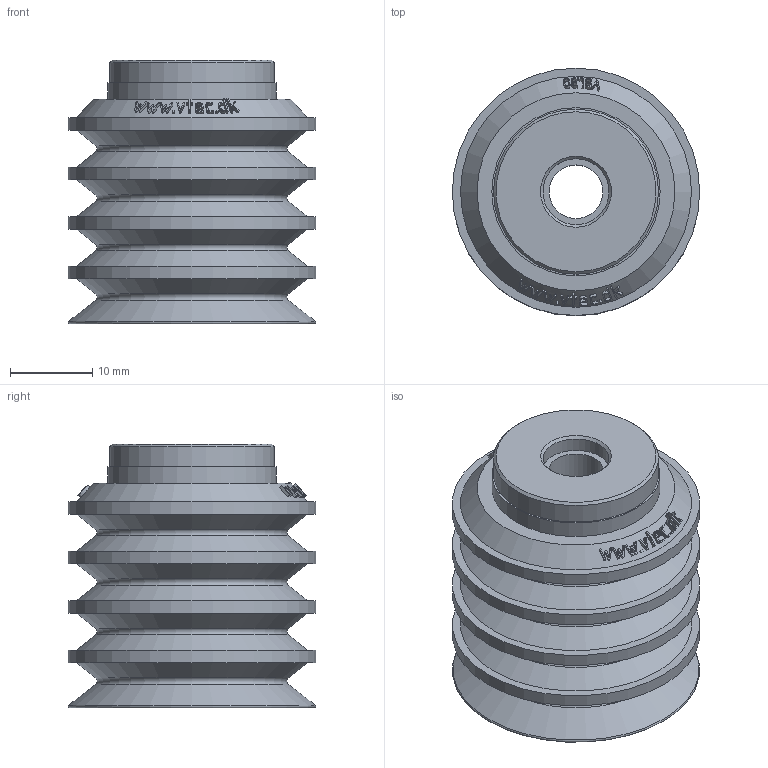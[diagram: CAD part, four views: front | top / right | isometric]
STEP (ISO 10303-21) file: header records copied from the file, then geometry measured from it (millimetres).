
FILE_DESCRIPTION( ( 'STEP AP203' ), '1' );
FILE_NAME( 'C:/撲啗紫賊-02/3D-蘋驍煎斜/Vacuum Pad/VBL series/VBL30.stp', '2006-04-24T11:49:53', ( ' ' ), ( ' ' ), 'XStep 1.0', ' ', ' ' );
FILE_SCHEMA( ( 'CONFIG_CONTROL_DESIGN) ( )' ) );
Length unit declared in the file: metre
Products named in the file (1): 1
Bounding box: 30 x 30 x 32 mm (x, y, z)
Volume: 4704.1 mm3; surface area: 8332.4 mm2
Topology: 1 solids, 1 shells, 201 faces, 476 edges, 311 vertices
Faces by surface type: bspline 129, cone 41, plane 17, cylinder 9, torus 5
Full cylindrical faces by diameter (mm): 6.5 x1, 8 x1, 11.5 x1, 20 x1, 20.4 x1, 30 x4
Entity records: 9443 total; most frequent: CARTESIAN_POINT 5798, ORIENTED_EDGE 880, EDGE_CURVE 440, DIRECTION 350, VERTEX_POINT 311, B_SPLINE_CURVE_WITH_KNOTS 285, EDGE_LOOP 273, FACE_OUTER_BOUND 217
